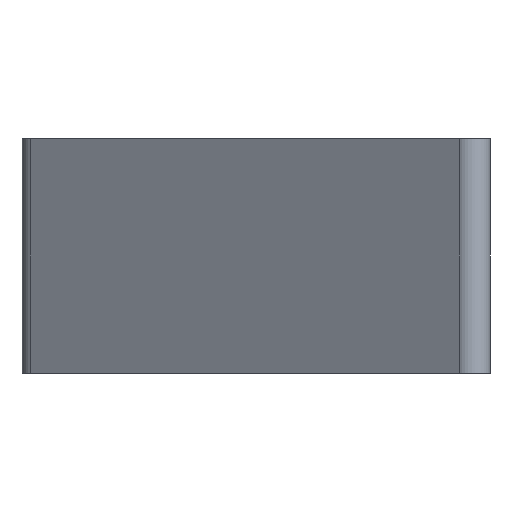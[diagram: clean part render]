
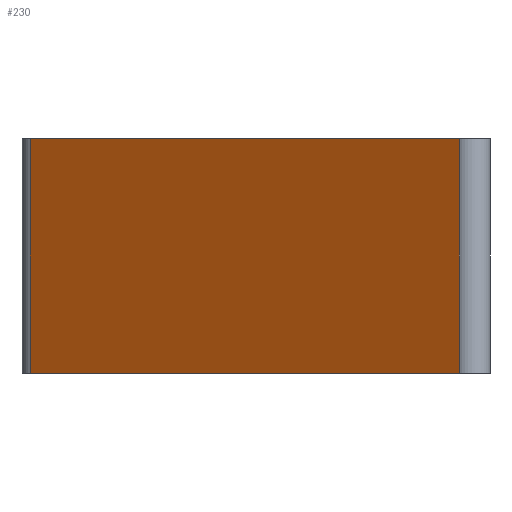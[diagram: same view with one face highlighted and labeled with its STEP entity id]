
A CAD part, left-side view. The second image highlights one B-rep face of the part: STEP entity #230.
In plain terms, the highlighted planar face has unit normal (-0.819, 0.574, 0).
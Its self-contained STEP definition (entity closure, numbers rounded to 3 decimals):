
#154=EDGE_CURVE('',#286,#360,#406,.T.);
#156=VERTEX_POINT('',#408);
#186=EDGE_CURVE('',#288,#360,#442,.T.);
#230=ADVANCED_FACE('',(#490),#491,.T.);
#240=EDGE_CURVE('',#156,#288,#501,.T.);
#286=VERTEX_POINT('',#551);
#288=VERTEX_POINT('',#553);
#360=VERTEX_POINT('',#631);
#368=EDGE_CURVE('',#156,#286,#640,.T.);
#406=LINE('',#679,#680);
#408=CARTESIAN_POINT('',(6.551,9.356,0.0));
#442=LINE('',#725,#726);
#490=FACE_OUTER_BOUND('',#789,.T.);
#491=PLANE('',#790);
#501=LINE('',#804,#805);
#551=CARTESIAN_POINT('',(6.551,9.356,-4.763));
#553=CARTESIAN_POINT('',(0.437,0.625,0.0));
#631=CARTESIAN_POINT('',(0.437,0.625,-4.763));
#640=LINE('',#994,#995);
#679=CARTESIAN_POINT('',(6.551,9.356,-4.763));
#680=VECTOR('',#1022,1.0);
#725=CARTESIAN_POINT('',(0.437,0.625,0.0));
#726=VECTOR('',#1068,1.0);
#789=EDGE_LOOP('',(#1117,#1118,#1119,#1120));
#790=AXIS2_PLACEMENT_3D('',#1121,#1122,#1123);
#804=CARTESIAN_POINT('',(6.551,9.356,0.0));
#805=VECTOR('',#1128,1.0);
#994=CARTESIAN_POINT('',(6.551,9.356,0.0));
#995=VECTOR('',#1275,1.0);
#1022=DIRECTION('',(-0.574,-0.819,0.0));
#1068=DIRECTION('',(0.0,0.0,-1.0));
#1117=ORIENTED_EDGE('',*,*,#154,.T.);
#1118=ORIENTED_EDGE('',*,*,#186,.F.);
#1119=ORIENTED_EDGE('',*,*,#240,.F.);
#1120=ORIENTED_EDGE('',*,*,#368,.T.);
#1121=CARTESIAN_POINT('',(6.551,9.356,0.0));
#1122=DIRECTION('',(-0.819,0.574,0.0));
#1123=DIRECTION('',(0.574,0.819,-0.0));
#1128=DIRECTION('',(-0.574,-0.819,0.0));
#1275=DIRECTION('',(0.0,0.0,-1.0));
